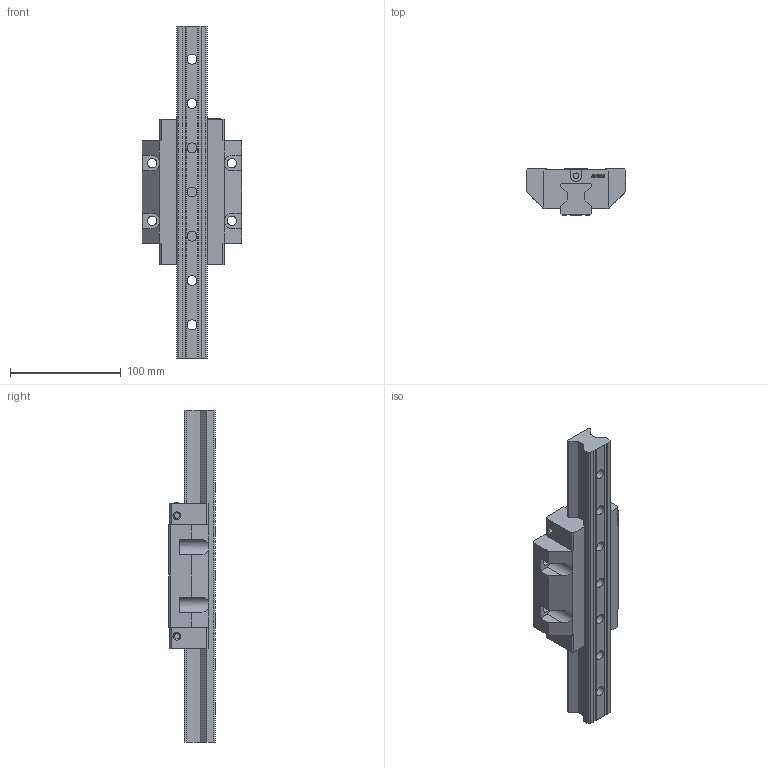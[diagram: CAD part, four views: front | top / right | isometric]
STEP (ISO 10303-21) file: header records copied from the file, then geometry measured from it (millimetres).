
FILE_DESCRIPTION(/* description */ (''),/* implementation_level */ '2;1');
FILE_NAME(/* name */ 'SRW30HC.stp',/* time_stamp */ '2022-01-22T15:23:03+08:00',/* author */ (''),/* organization */ (''),/* preprocessor_version */ 'ST-DEVELOPER v15',/* originating_system */ 'SIEMENS PLM Software NX 8.5',/* authorisation */ '');
FILE_SCHEMA (('CONFIG_CONTROL_DESIGN'));
Length unit declared in the file: millimetre
Products named in the file (1): _model1
Bounding box: 90 x 42 x 300 mm (x, y, z)
Volume: 445145.5 mm3; surface area: 88166.5 mm2
Topology: 2 solids, 2 shells, 270 faces, 749 edges, 502 vertices
Faces by surface type: plane 139, extrusion 89, cylinder 32, cone 10
Full cylindrical faces by diameter (mm): 5 x6, 8.5 x6, 9 x7, 14 x7
Entity records: 9246 total; most frequent: CARTESIAN_POINT 2589, ORIENTED_EDGE 1422, DIRECTION 1088, EDGE_CURVE 711, VECTOR 520, VERTEX_POINT 500, LINE 431, EDGE_LOOP 351
